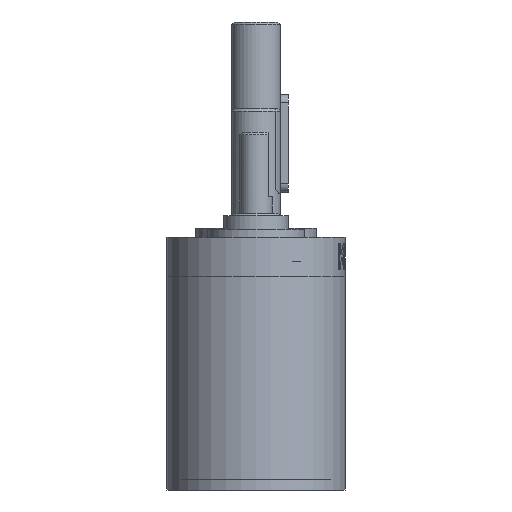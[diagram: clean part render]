
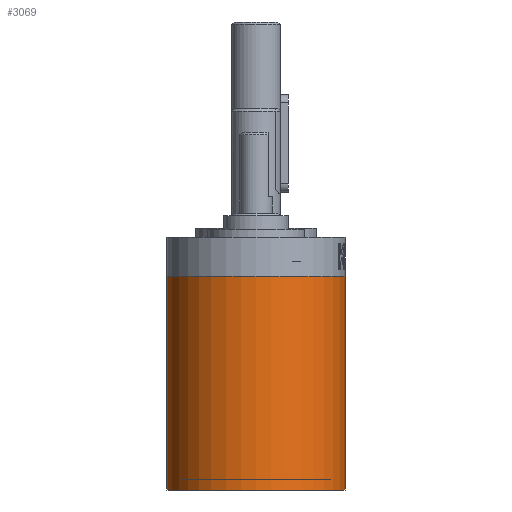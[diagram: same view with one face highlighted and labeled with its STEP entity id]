
A CAD part, left-side view. The second image highlights one B-rep face of the part: STEP entity #3069.
In plain terms, the highlighted cylindrical face has radius 11 mm (diameter 22 mm), a full revolution.
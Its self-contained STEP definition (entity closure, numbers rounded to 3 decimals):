
#2005=FACE_BOUND('',#4742,.T.);
#2006=FACE_BOUND('',#4743,.T.);
#2365=CYLINDRICAL_SURFACE('',#11499,11.);
#3069=ADVANCED_FACE('',(#2005,#2006),#2365,.T.);
#4742=EDGE_LOOP('',(#7601));
#4743=EDGE_LOOP('',(#7602));
#5345=CIRCLE('',#11497,11.);
#5346=CIRCLE('',#11498,11.);
#7601=ORIENTED_EDGE('',*,*,#9951,.F.);
#7602=ORIENTED_EDGE('',*,*,#9952,.T.);
#8833=VERTEX_POINT('',#28812);
#8834=VERTEX_POINT('',#28814);
#9951=EDGE_CURVE('',#8833,#8833,#5345,.T.);
#9952=EDGE_CURVE('',#8834,#8834,#5346,.T.);
#11497=AXIS2_PLACEMENT_3D('',#28811,#13392,#13393);
#11498=AXIS2_PLACEMENT_3D('',#28813,#13394,#13395);
#11499=AXIS2_PLACEMENT_3D('',#28815,#13396,#13397);
#13392=DIRECTION('',(0.,0.,-1.));
#13393=DIRECTION('',(1.,0.,0.));
#13394=DIRECTION('',(0.,0.,-1.));
#13395=DIRECTION('',(1.,0.,0.));
#13396=DIRECTION('',(0.,0.,1.));
#13397=DIRECTION('',(1.,0.,0.));
#28811=CARTESIAN_POINT('',(-24.,0.,0.));
#28812=CARTESIAN_POINT('',(-13.,0.,0.));
#28813=CARTESIAN_POINT('',(-24.,0.,26.399));
#28814=CARTESIAN_POINT('',(-13.,0.,26.399));
#28815=CARTESIAN_POINT('',(-24.,0.,26.));
